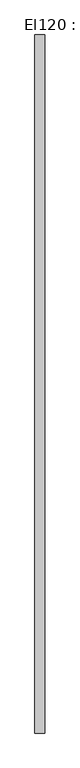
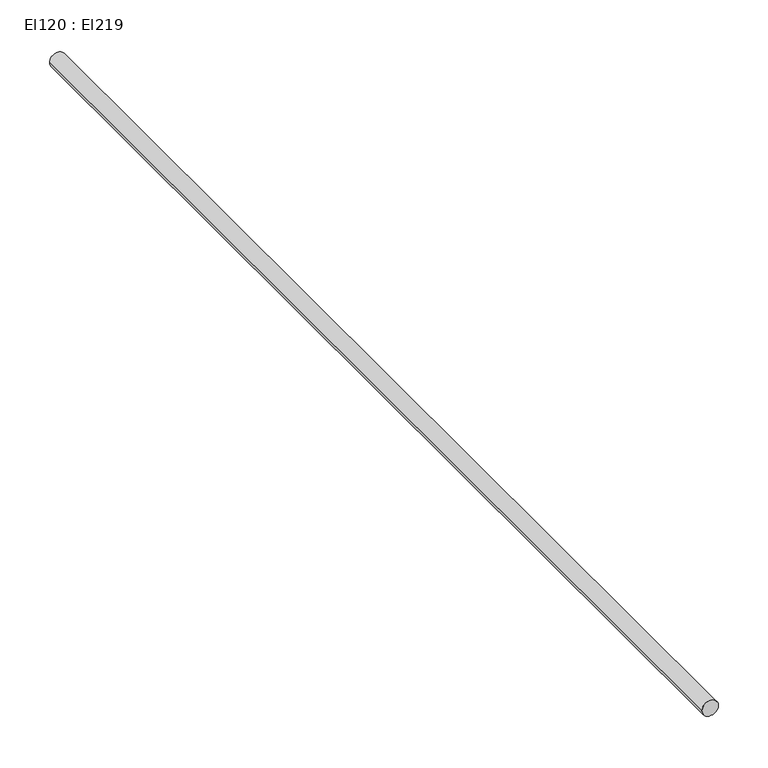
"""IFC4 building model written with IfcOpenShell, lengths in millimetres: cable carrier segment geometry, El120 : El219."""

from ifc_helpers import new_model, si_unit, point, frame, frame_2d, origin, place, context, project, spatial, circle_curve, trimmed, segment, composite_curve, outline, extrude, source, transform, mapped, element, save


def el120_el219_29f7e790(model_context):
    return source(origin(), model_context, "Body", "SweptSolid", [
        extrude(outline(composite_curve([segment(trimmed(circle_curve(frame_2d((1800.0, 2764.4746511)), 9.5), [point((1800.0, 2754.9746511))], [point((1800.0, 2773.9746511))], False, "CARTESIAN"), True, "CONTINUOUS"), segment(trimmed(circle_curve(frame_2d((1800.0, 2764.4746511)), 9.5), [point((1800.0, 2773.9746511))], [point((1800.0, 2754.9746511))], False, "CARTESIAN"), True, "CONTINUOUS")], self_intersect=False)), frame((0.0, 16657.2811745, 0.0), z_axis=(0.0, 1.0, 0.0), x_axis=(0.0, 0.0, 1.0)), (0.0, 0.0, 1.0), 1316.86),
    ])


if __name__ == "__main__":
    model = new_model("IFC4")
    model_context = context("Model", 3, world=origin())
    ifc_project = project(units=[si_unit("LENGTHUNIT", "METRE", prefix="MILLI")], contexts=[model_context])
    site = spatial("IfcSite", under=ifc_project)
    building = spatial("IfcBuilding", under=site)
    placement = place(None, origin())
    el120_el219_shape = el120_el219_29f7e790(model_context)
    element("IfcCableCarrierSegment", 1, ObjectType="El120 : El219", at=placement, inside=building, context=model_context, shape_type="MappedRepresentation", body=[
        mapped(el120_el219_shape, transform((0.0, 0.0, 0.0), x_axis=(1.0, 0.0, 0.0), y_axis=(0.0, 1.0, 0.0), z_axis=(0.0, 0.0, 1.0))),
    ])
    save(model, "model.ifc")
